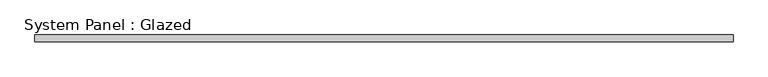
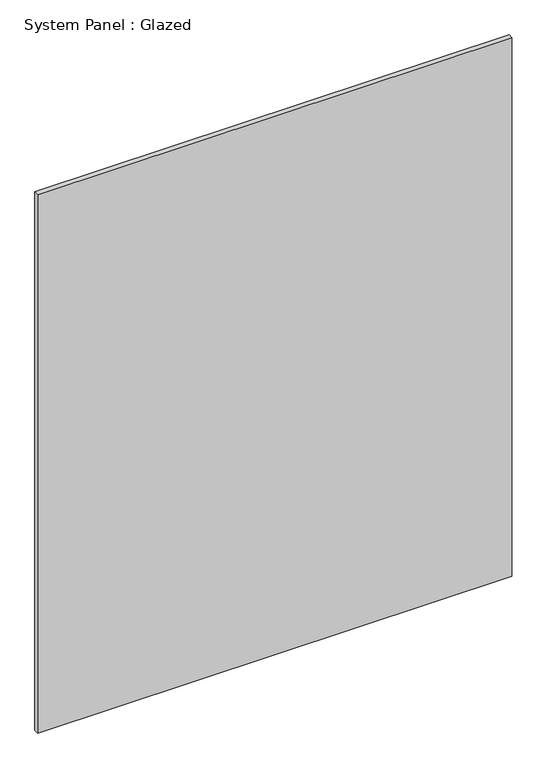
"""IFC4 building model written with IfcOpenShell, lengths in millimetres: plate geometry, System Panel : Glazed."""

from ifc_helpers import new_model, si_unit, origin, origin_with_axes, place, context, project, spatial, polyline, outline, extrude, source, transform, mapped, element, save


def system_panel_glazed_528b41a4(model_context):
    return source(origin(), model_context, "Body", "SweptSolid", [
        extrude(outline(polyline([(1270.0, 24.5), (-1270.0, 24.5), (-1270.0, 49.5), (1270.0, 49.5), (1270.0, 24.5)])), origin_with_axes(), (0.0, 0.0, 1.0), 3048.0),
    ])


if __name__ == "__main__":
    model = new_model("IFC4")
    model_context = context("Model", 3, world=origin())
    ifc_project = project(units=[si_unit("LENGTHUNIT", "METRE", prefix="MILLI")], contexts=[model_context])
    site = spatial("IfcSite", under=ifc_project)
    building = spatial("IfcBuilding", under=site)
    placement = place(None, origin())
    system_panel_glazed_shape = system_panel_glazed_528b41a4(model_context)
    element("IfcPlate", 1, ObjectType="System Panel : Glazed", at=placement, inside=building, context=model_context, shape_type="MappedRepresentation", body=[
        mapped(system_panel_glazed_shape, transform((0.0, 0.0, 0.0), x_axis=(1.0, 0.0, 0.0), y_axis=(0.0, 1.0, 0.0), z_axis=(0.0, 0.0, 1.0))),
    ])
    save(model, "model.ifc")
